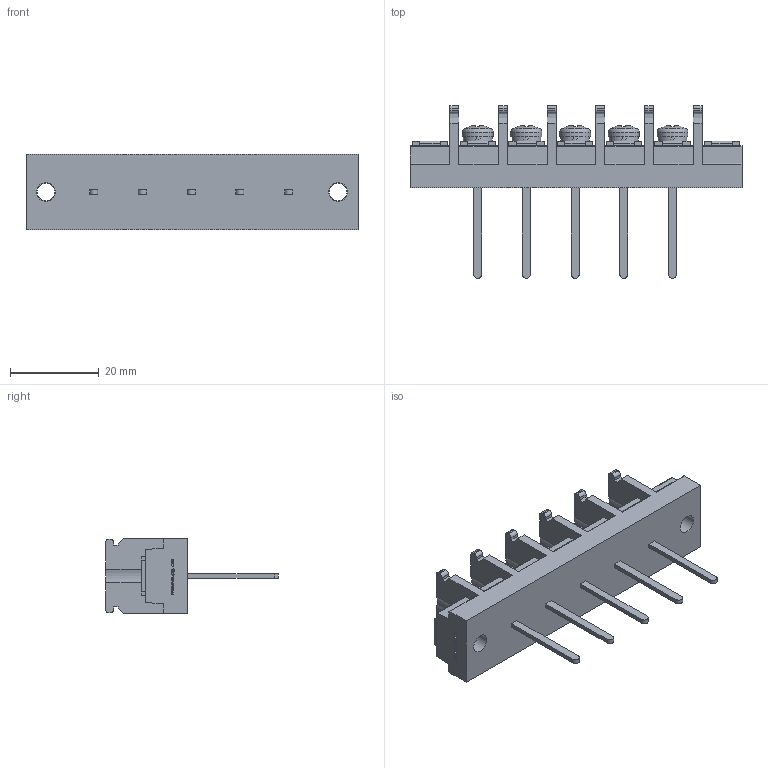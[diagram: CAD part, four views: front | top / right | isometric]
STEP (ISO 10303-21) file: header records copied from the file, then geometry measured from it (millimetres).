
FILE_DESCRIPTION(/* description */ ('Alibre Inc.'),/* implementation_level */ '2;1');
FILE_NAME(/* name */ 'export0',/* time_stamp */ '2015-10-20T07:54:21+09:00',/* author */ (''),/* organization */ (''),/* preprocessor_version */ 'ST-DEVELOPER v14',/* originating_system */ 'Alibre',/* authorisation */ '');
FILE_SCHEMA (('CONFIG_CONTROL_DESIGN'));
Length unit declared in the file: centimetre
Products named in the file (1): ID_1
Bounding box: 75 x 39 x 17 mm (x, y, z)
Volume: 13463.6 mm3; surface area: 8062.5 mm2
Topology: 1 solids, 1 shells, 819 faces, 2261 edges, 1503 vertices
Faces by surface type: plane 578, bspline 104, cylinder 102, cone 20, torus 10, sphere 5
Full cylindrical faces by diameter (mm): 4 x7, 4.2 x2, 6.5 x5, 7 x5
Entity records: 25310 total; most frequent: CARTESIAN_POINT 5601, ORIENTED_EDGE 4440, DIRECTION 3154, EDGE_CURVE 2220, VECTOR 1612, LINE 1612, VERTEX_POINT 1486, AXIS2_PLACEMENT_3D 1055
